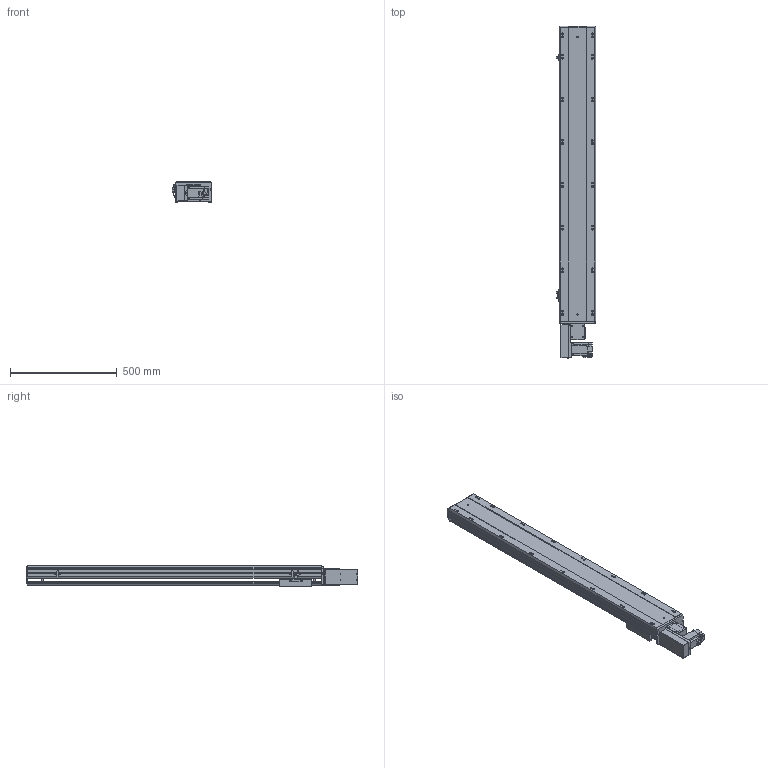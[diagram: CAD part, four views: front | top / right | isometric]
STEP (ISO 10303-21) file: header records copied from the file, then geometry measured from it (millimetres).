
FILE_DESCRIPTION (( 'STEP AP203' ), '1' );
FILE_NAME ('BTB17-L40-1100-R-M40-C4.STEP', '2022-07-20T06:34:53', ( 'CXY' ), ( 'BT' ), 'SwSTEP 2.0', 'SolidWorks 2016', '' );
FILE_SCHEMA (( 'CONFIG_CONTROL_DESIGN' ));
Length unit declared in the file: millimetre
Products named in the file (11): BTB17-L-23; FS-07-T40(1); BTB17-L-24; BTB17-L40-1100-R-M40-C4; BTB17-L-06; BTB17-L-菁釱_XD; M40; BTB17-L-04; BTB17-L-01; FS-08-T40; BTB17-L-HZ
Assembly tree (13 placements, depth 2):
  BTB17-L40-1100-R-M40-C4
    BTB17-L-菁釱_XD
    BTB17-L-01
    BTB17-L-04  x3
    BTB17-L-06
    BTB17-L-23  x2
    BTB17-L-24
    BTB17-L-HZ
    FS-07-T40(1)
    FS-08-T40
    M40
Bounding box: 183.7 x 1554.5 x 97 mm (x, y, z)
Volume: 12572603.5 mm3; surface area: 1713127.1 mm2
Topology: 22 solids, 22 shells, 1633 faces, 4295 edges, 2722 vertices
Faces by surface type: plane 909, cylinder 536, cone 156, torus 16, bspline 16
Entity records: 42514 total; most frequent: CARTESIAN_POINT 8338, DIRECTION 6953, ORIENTED_EDGE 6734, EDGE_CURVE 3367, AXIS2_PLACEMENT_3D 2359, LINE 2235, VECTOR 2235, VERTEX_POINT 2190
